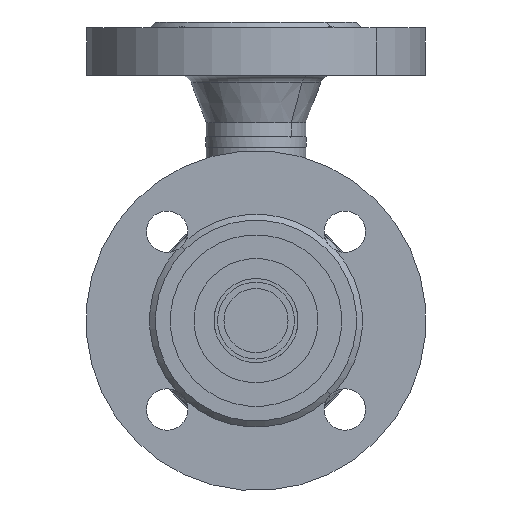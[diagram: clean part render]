
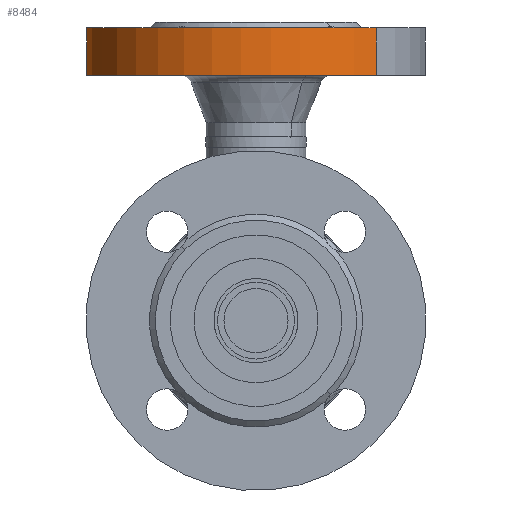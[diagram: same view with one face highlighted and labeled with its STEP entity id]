
A CAD part, front view. The second image highlights one B-rep face of the part: STEP entity #8484.
In plain terms, the highlighted cylindrical face has radius 57.5 mm (diameter 115 mm), a partial arc.
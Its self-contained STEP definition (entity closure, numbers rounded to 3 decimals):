
#37 = VERTEX_POINT ( 'NONE', #14163 ) ;
#262 = EDGE_CURVE ( 'NONE', #37, #14186, #14433, .T. ) ;
#545 = VERTEX_POINT ( 'NONE', #15103 ) ;
#634 = ORIENTED_EDGE ( 'NONE', *, *, #262, .F. ) ;
#768 = VERTEX_POINT ( 'NONE', #15264 ) ;
#18297 = FACE_OUTER_BOUND ( 'NONE', #8314, .T. ) ;
#18298 = CYLINDRICAL_SURFACE ( 'NONE', #18299, 57.5 ) ;
#18299 = AXIS2_PLACEMENT_3D ( 'NONE', #18300, #18301, #18302 ) ;
#18300 = CARTESIAN_POINT ( 'NONE',  ( 0., 75., 0. ) ) ;
#18301 = DIRECTION ( 'NONE',  ( 0., 1., 0. ) ) ;
#18302 = DIRECTION ( 'NONE',  ( -1., 0., 0. ) ) ;
#18399 = LINE ( 'NONE', #18400, #18401 ) ;
#18400 = CARTESIAN_POINT ( 'NONE',  ( -57.5, 75., 0. ) ) ;
#18401 = VECTOR ( 'NONE', #18402, 1000. ) ;
#18402 = DIRECTION ( 'NONE',  ( 0., 1., 0. ) ) ;
#8314 = EDGE_LOOP ( 'NONE', ( #15706, #15144, #634, #8977 ) ) ;
#8484 = ADVANCED_FACE ( 'NONE', ( #18297 ), #18298, .T. ) ;
#8625 = EDGE_CURVE ( 'NONE', #768, #37, #18399, .T. ) ;
#8816 = CARTESIAN_POINT ( 'NONE',  ( 57.5, 18., 0. ) ) ;
#8928 = LINE ( 'NONE', #8929, #8930 ) ;
#8929 = CARTESIAN_POINT ( 'NONE',  ( 57.5, 75., 0. ) ) ;
#8930 = VECTOR ( 'NONE', #8931, 1000. ) ;
#8931 = DIRECTION ( 'NONE',  ( 0., 1., 0. ) ) ;
#8977 = ORIENTED_EDGE ( 'NONE', *, *, #8625, .F. ) ;
#9557 = CIRCLE ( 'NONE', #9558, 57.5 ) ;
#9558 = AXIS2_PLACEMENT_3D ( 'NONE', #9559, #9560, #9561 ) ;
#9559 = CARTESIAN_POINT ( 'NONE',  ( 0., 2., 0. ) ) ;
#9560 = DIRECTION ( 'NONE',  ( 0., 1., 0. ) ) ;
#9561 = DIRECTION ( 'NONE',  ( -1., 0., 0. ) ) ;
#14163 = CARTESIAN_POINT ( 'NONE',  ( -57.5, 18., 0. ) ) ;
#14186 = VERTEX_POINT ( 'NONE', #8816 ) ;
#14433 = CIRCLE ( 'NONE', #14434, 57.5 ) ;
#14434 = AXIS2_PLACEMENT_3D ( 'NONE', #14435, #14436, #14437 ) ;
#14435 = CARTESIAN_POINT ( 'NONE',  ( 0., 18., 0. ) ) ;
#14436 = DIRECTION ( 'NONE',  ( 0., 1., 0. ) ) ;
#14437 = DIRECTION ( 'NONE',  ( -1., 0., 0. ) ) ;
#14594 = EDGE_CURVE ( 'NONE', #545, #14186, #8928, .T. ) ;
#15103 = CARTESIAN_POINT ( 'NONE',  ( 57.5, 2., 0. ) ) ;
#15144 = ORIENTED_EDGE ( 'NONE', *, *, #14594, .T. ) ;
#15264 = CARTESIAN_POINT ( 'NONE',  ( -57.5, 2., 0. ) ) ;
#15546 = EDGE_CURVE ( 'NONE', #768, #545, #9557, .T. ) ;
#15706 = ORIENTED_EDGE ( 'NONE', *, *, #15546, .T. ) ;
